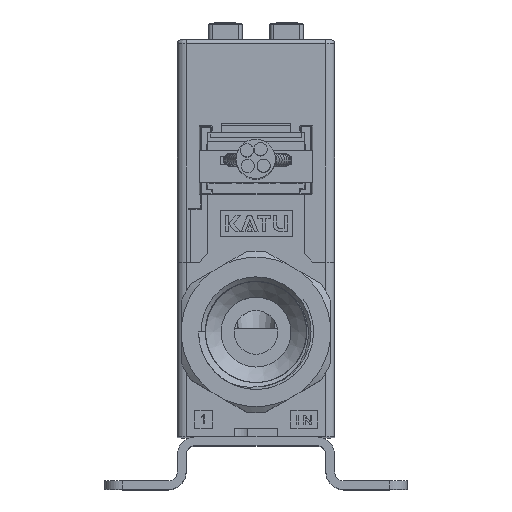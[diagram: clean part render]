
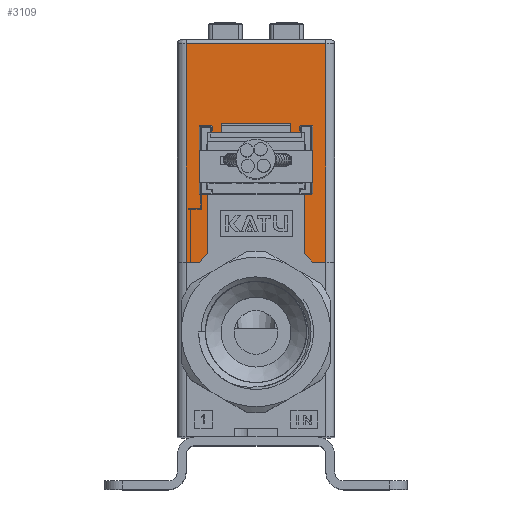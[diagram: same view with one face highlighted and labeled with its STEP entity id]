
A CAD part, top view. The second image highlights one B-rep face of the part: STEP entity #3109.
In plain terms, the highlighted planar face has unit normal (0, 0, 1).
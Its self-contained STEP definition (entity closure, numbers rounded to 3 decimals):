
#51=ELLIPSE('',#34979,0.1,0.1);
#52=ELLIPSE('',#34980,0.1,0.1);
#53=ELLIPSE('',#34981,0.1,0.1);
#54=ELLIPSE('',#34982,0.1,0.1);
#55=ELLIPSE('',#34983,0.1,0.1);
#1043=PLANE('',#34984);
#3109=ADVANCED_FACE('',(#5230),#1043,.F.);
#5230=FACE_OUTER_BOUND('',#7067,.T.);
#7067=EDGE_LOOP('',(#14657,#14658,#14659,#14660,#14661,#14662,#14663,#14664,
#14665,#14666,#14667,#14668,#14669,#14670,#14671,#14672,#14673,#14674,#14675,
#14676,#14677,#14678,#14679));
#14657=ORIENTED_EDGE('',*,*,#25156,.F.);
#14658=ORIENTED_EDGE('',*,*,#25157,.T.);
#14659=ORIENTED_EDGE('',*,*,#25158,.T.);
#14660=ORIENTED_EDGE('',*,*,#25159,.T.);
#14661=ORIENTED_EDGE('',*,*,#24972,.F.);
#14662=ORIENTED_EDGE('',*,*,#25160,.T.);
#14663=ORIENTED_EDGE('',*,*,#25161,.F.);
#14664=ORIENTED_EDGE('',*,*,#25162,.F.);
#14665=ORIENTED_EDGE('',*,*,#25163,.T.);
#14666=ORIENTED_EDGE('',*,*,#25164,.F.);
#14667=ORIENTED_EDGE('',*,*,#25165,.T.);
#14668=ORIENTED_EDGE('',*,*,#25037,.F.);
#14669=ORIENTED_EDGE('',*,*,#25166,.F.);
#14670=ORIENTED_EDGE('',*,*,#25026,.F.);
#14671=ORIENTED_EDGE('',*,*,#25167,.T.);
#14672=ORIENTED_EDGE('',*,*,#25168,.F.);
#14673=ORIENTED_EDGE('',*,*,#25169,.T.);
#14674=ORIENTED_EDGE('',*,*,#25170,.F.);
#14675=ORIENTED_EDGE('',*,*,#25171,.T.);
#14676=ORIENTED_EDGE('',*,*,#25172,.F.);
#14677=ORIENTED_EDGE('',*,*,#25173,.T.);
#14678=ORIENTED_EDGE('',*,*,#24966,.F.);
#14679=ORIENTED_EDGE('',*,*,#25174,.T.);
#21011=VERTEX_POINT('',#54217);
#21027=VERTEX_POINT('',#54250);
#21029=VERTEX_POINT('',#54256);
#21030=VERTEX_POINT('',#54257);
#21035=VERTEX_POINT('',#54268);
#21036=VERTEX_POINT('',#54270);
#21084=VERTEX_POINT('',#54377);
#21085=VERTEX_POINT('',#54379);
#21093=VERTEX_POINT('',#54399);
#21094=VERTEX_POINT('',#54401);
#21184=VERTEX_POINT('',#54643);
#21185=VERTEX_POINT('',#54644);
#21186=VERTEX_POINT('',#54646);
#21187=VERTEX_POINT('',#54648);
#21188=VERTEX_POINT('',#54652);
#21189=VERTEX_POINT('',#54654);
#21190=VERTEX_POINT('',#54656);
#21191=VERTEX_POINT('',#54658);
#21192=VERTEX_POINT('',#54662);
#21193=VERTEX_POINT('',#54664);
#21194=VERTEX_POINT('',#54666);
#21195=VERTEX_POINT('',#54668);
#21196=VERTEX_POINT('',#54670);
#24966=EDGE_CURVE('',#21029,#21030,#28940,.T.);
#24972=EDGE_CURVE('',#21035,#21036,#28946,.T.);
#25026=EDGE_CURVE('',#21084,#21085,#28998,.T.);
#25037=EDGE_CURVE('',#21093,#21094,#29009,.T.);
#25156=EDGE_CURVE('',#21184,#21185,#29104,.T.);
#25157=EDGE_CURVE('',#21184,#21186,#29105,.T.);
#25158=EDGE_CURVE('',#21186,#21187,#29106,.T.);
#25159=EDGE_CURVE('',#21187,#21036,#29107,.T.);
#25160=EDGE_CURVE('',#21035,#21027,#29108,.T.);
#25161=EDGE_CURVE('',#21188,#21027,#29109,.T.);
#25162=EDGE_CURVE('',#21189,#21188,#29110,.T.);
#25163=EDGE_CURVE('',#21189,#21190,#51,.T.);
#25164=EDGE_CURVE('',#21191,#21190,#29111,.T.);
#25165=EDGE_CURVE('',#21191,#21094,#52,.T.);
#25166=EDGE_CURVE('',#21085,#21093,#29112,.T.);
#25167=EDGE_CURVE('',#21084,#21192,#53,.T.);
#25168=EDGE_CURVE('',#21193,#21192,#29113,.T.);
#25169=EDGE_CURVE('',#21193,#21194,#54,.T.);
#25170=EDGE_CURVE('',#21195,#21194,#29114,.T.);
#25171=EDGE_CURVE('',#21195,#21196,#55,.T.);
#25172=EDGE_CURVE('',#21011,#21196,#29115,.T.);
#25173=EDGE_CURVE('',#21011,#21030,#29116,.T.);
#25174=EDGE_CURVE('',#21029,#21185,#29117,.T.);
#28940=LINE('',#54255,#31994);
#28946=LINE('',#54269,#32000);
#28998=LINE('',#54378,#32052);
#29009=LINE('',#54400,#32063);
#29104=LINE('',#54642,#32158);
#29105=LINE('',#54645,#32159);
#29106=LINE('',#54647,#32160);
#29107=LINE('',#54649,#32161);
#29108=LINE('',#54650,#32162);
#29109=LINE('',#54651,#32163);
#29110=LINE('',#54653,#32164);
#29111=LINE('',#54657,#32165);
#29112=LINE('',#54660,#32166);
#29113=LINE('',#54663,#32167);
#29114=LINE('',#54667,#32168);
#29115=LINE('',#54671,#32169);
#29116=LINE('',#54672,#32170);
#29117=LINE('',#54673,#32171);
#31994=VECTOR('',#40670,1.);
#32000=VECTOR('',#40678,1.);
#32052=VECTOR('',#40746,1.);
#32063=VECTOR('',#40761,1.);
#32158=VECTOR('',#40970,1.);
#32159=VECTOR('',#40971,1.);
#32160=VECTOR('',#40972,1.);
#32161=VECTOR('',#40973,1.);
#32162=VECTOR('',#40974,1.);
#32163=VECTOR('',#40975,1.);
#32164=VECTOR('',#40976,1.);
#32165=VECTOR('',#40979,1.);
#32166=VECTOR('',#40982,1.);
#32167=VECTOR('',#40985,1.);
#32168=VECTOR('',#40988,1.);
#32169=VECTOR('',#40991,1.);
#32170=VECTOR('',#40992,1.);
#32171=VECTOR('',#40993,1.);
#34979=AXIS2_PLACEMENT_3D('',#54655,#40977,#40978);
#34980=AXIS2_PLACEMENT_3D('',#54659,#40980,#40981);
#34981=AXIS2_PLACEMENT_3D('',#54661,#40983,#40984);
#34982=AXIS2_PLACEMENT_3D('',#54665,#40986,#40987);
#34983=AXIS2_PLACEMENT_3D('',#54669,#40989,#40990);
#34984=AXIS2_PLACEMENT_3D('',#54674,#40994,#40995);
#40670=DIRECTION('',(-0.707,0.707,0.));
#40678=DIRECTION('',(-0.707,-0.707,0.));
#40746=DIRECTION('',(0.,-1.,0.));
#40761=DIRECTION('',(0.,1.,0.));
#40970=DIRECTION('',(0.,-1.,0.));
#40971=DIRECTION('',(-1.,0.,0.));
#40972=DIRECTION('',(0.,-1.,0.));
#40973=DIRECTION('',(1.,0.,0.));
#40974=DIRECTION('',(0.,1.,0.));
#40975=DIRECTION('',(1.,0.,0.));
#40976=DIRECTION('',(0.,-1.,0.));
#40977=DIRECTION('',(0.,0.,-1.));
#40978=DIRECTION('',(-0.707,0.707,0.));
#40979=DIRECTION('',(-1.,0.,0.));
#40980=DIRECTION('',(0.,0.,-1.));
#40981=DIRECTION('',(0.707,0.707,0.));
#40982=DIRECTION('',(-1.,0.,0.));
#40983=DIRECTION('',(0.,0.,-1.));
#40984=DIRECTION('',(-0.707,0.707,0.));
#40985=DIRECTION('',(-1.,0.,0.));
#40986=DIRECTION('',(0.,0.,-1.));
#40987=DIRECTION('',(0.707,0.707,0.));
#40988=DIRECTION('',(0.,1.,0.));
#40989=DIRECTION('',(0.,0.,-1.));
#40990=DIRECTION('',(-1.,0.,0.));
#40991=DIRECTION('',(1.,0.,0.));
#40992=DIRECTION('',(0.,-1.,0.));
#40993=DIRECTION('',(1.,0.,0.));
#40994=DIRECTION('',(0.,0.,-1.));
#40995=DIRECTION('',(-1.,0.,0.));
#54217=CARTESIAN_POINT('',(32.,16.8,-13.5));
#54250=CARTESIAN_POINT('',(21.,16.8,-13.5));
#54255=CARTESIAN_POINT('',(32.,10.,-13.5));
#54256=CARTESIAN_POINT('',(33.,9.,-13.5));
#54257=CARTESIAN_POINT('',(32.,10.,-13.5));
#54268=CARTESIAN_POINT('',(21.,10.,-13.5));
#54269=CARTESIAN_POINT('',(20.,9.,-13.5));
#54270=CARTESIAN_POINT('',(20.,9.,-13.5));
#54377=CARTESIAN_POINT('',(31.5,24.5,-13.5));
#54378=CARTESIAN_POINT('',(31.5,36.9,-13.5));
#54379=CARTESIAN_POINT('',(31.5,23.3,-13.5));
#54399=CARTESIAN_POINT('',(21.5,23.3,-13.5));
#54400=CARTESIAN_POINT('',(21.5,36.9,-13.5));
#54401=CARTESIAN_POINT('',(21.5,24.5,-13.5));
#54642=CARTESIAN_POINT('',(34.5,36.6,-13.5));
#54643=CARTESIAN_POINT('',(34.5,34.,-13.5));
#54644=CARTESIAN_POINT('',(34.5,9.,-13.5));
#54645=CARTESIAN_POINT('',(18.5,34.,-13.5));
#54646=CARTESIAN_POINT('',(18.5,34.,-13.5));
#54647=CARTESIAN_POINT('',(18.5,36.6,-13.5));
#54648=CARTESIAN_POINT('',(18.5,9.,-13.5));
#54649=CARTESIAN_POINT('',(33.,9.,-13.5));
#54650=CARTESIAN_POINT('',(21.,21.25,-13.5));
#54651=CARTESIAN_POINT('',(21.,16.8,-13.5));
#54652=CARTESIAN_POINT('',(20.,16.8,-13.5));
#54653=CARTESIAN_POINT('',(20.,36.6,-13.5));
#54654=CARTESIAN_POINT('',(20.,24.5,-13.5));
#54655=CARTESIAN_POINT('',(20.1,24.5,-13.5));
#54656=CARTESIAN_POINT('',(20.1,24.6,-13.5));
#54657=CARTESIAN_POINT('',(33.,24.6,-13.5));
#54658=CARTESIAN_POINT('',(21.4,24.6,-13.5));
#54659=CARTESIAN_POINT('',(21.4,24.5,-13.5));
#54660=CARTESIAN_POINT('',(33.,23.3,-13.5));
#54661=CARTESIAN_POINT('',(31.6,24.5,-13.5));
#54662=CARTESIAN_POINT('',(31.6,24.6,-13.5));
#54663=CARTESIAN_POINT('',(33.,24.6,-13.5));
#54664=CARTESIAN_POINT('',(32.9,24.6,-13.5));
#54665=CARTESIAN_POINT('',(32.9,24.5,-13.5));
#54666=CARTESIAN_POINT('',(33.,24.5,-13.5));
#54667=CARTESIAN_POINT('',(33.,36.6,-13.5));
#54668=CARTESIAN_POINT('',(33.,16.9,-13.5));
#54669=CARTESIAN_POINT('',(32.9,16.9,-13.5));
#54670=CARTESIAN_POINT('',(32.9,16.8,-13.5));
#54671=CARTESIAN_POINT('',(32.,16.8,-13.5));
#54672=CARTESIAN_POINT('',(32.,36.6,-13.5));
#54673=CARTESIAN_POINT('',(33.,9.,-13.5));
#54674=CARTESIAN_POINT('',(33.,36.6,-13.5));
